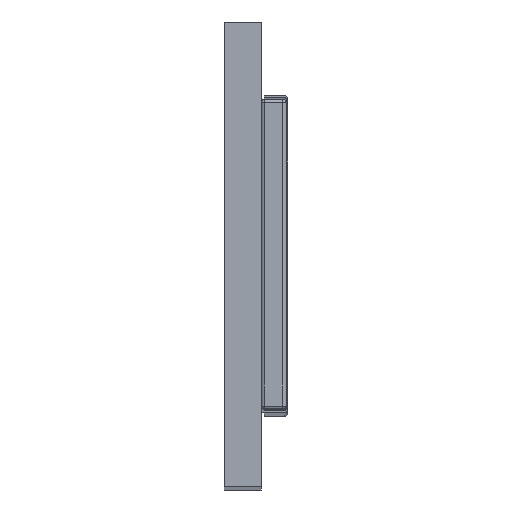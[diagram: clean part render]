
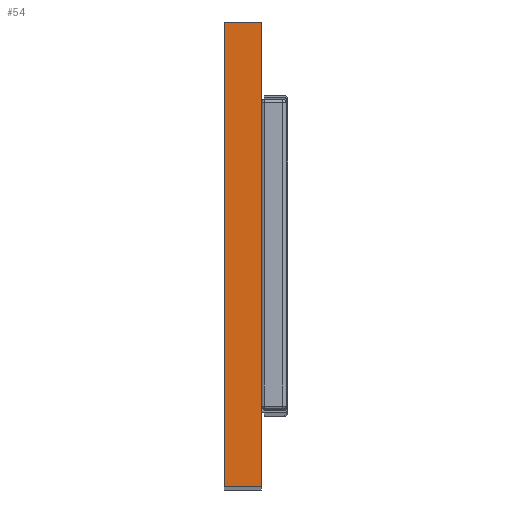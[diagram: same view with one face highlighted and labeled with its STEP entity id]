
A CAD part, top view. The second image highlights one B-rep face of the part: STEP entity #54.
In plain terms, the highlighted planar face has unit normal (0, 0, 1).
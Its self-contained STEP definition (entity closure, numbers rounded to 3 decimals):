
#54 = ADVANCED_FACE ( 'NONE', ( #4397 ), #1529, .F. ) ;
#68 = CARTESIAN_POINT ( 'NONE',  ( 6., 0., 320. ) ) ;
#256 = AXIS2_PLACEMENT_3D ( 'NONE', #1538, #1594, #1607 ) ;
#271 = ORIENTED_EDGE ( 'NONE', *, *, #3890, .T. ) ;
#312 = DIRECTION ( 'NONE',  ( 0., 1., 0. ) ) ;
#393 = ORIENTED_EDGE ( 'NONE', *, *, #528, .T. ) ;
#468 = EDGE_CURVE ( 'NONE', #2194, #3749, #2788, .T. ) ;
#500 = DIRECTION ( 'NONE',  ( 0., -1., 0. ) ) ;
#528 = EDGE_CURVE ( 'NONE', #1453, #2194, #3577, .T. ) ;
#738 = VECTOR ( 'NONE', #312, 1000. ) ;
#956 = DIRECTION ( 'NONE',  ( 1., 0., 0. ) ) ;
#990 = VECTOR ( 'NONE', #500, 1000. ) ;
#1063 = DIRECTION ( 'NONE',  ( -1., 0., 0. ) ) ;
#1158 = ORIENTED_EDGE ( 'NONE', *, *, #468, .T. ) ;
#1179 = VECTOR ( 'NONE', #1063, 1000. ) ;
#1256 = CARTESIAN_POINT ( 'NONE',  ( 0., 0., 320. ) ) ;
#1453 = VERTEX_POINT ( 'NONE', #2656 ) ;
#1529 = PLANE ( 'NONE',  #256 ) ;
#1538 = CARTESIAN_POINT ( 'NONE',  ( 0., 0., 320. ) ) ;
#1594 = DIRECTION ( 'NONE',  ( 0., 0., -1. ) ) ;
#1607 = DIRECTION ( 'NONE',  ( -1., 0., 0. ) ) ;
#1632 = VECTOR ( 'NONE', #956, 1000. ) ;
#1917 = CARTESIAN_POINT ( 'NONE',  ( 6., 0., 320. ) ) ;
#2001 = EDGE_LOOP ( 'NONE', ( #271, #393, #1158, #2726 ) ) ;
#2194 = VERTEX_POINT ( 'NONE', #68 ) ;
#2466 = LINE ( 'NONE', #4141, #1179 ) ;
#2656 = CARTESIAN_POINT ( 'NONE',  ( 0., 0., 320. ) ) ;
#2726 = ORIENTED_EDGE ( 'NONE', *, *, #3564, .T. ) ;
#2788 = LINE ( 'NONE', #1917, #738 ) ;
#3014 = VERTEX_POINT ( 'NONE', #4504 ) ;
#3564 = EDGE_CURVE ( 'NONE', #3749, #3014, #2466, .T. ) ;
#3577 = LINE ( 'NONE', #4707, #1632 ) ;
#3749 = VERTEX_POINT ( 'NONE', #4649 ) ;
#3890 = EDGE_CURVE ( 'NONE', #3014, #1453, #3954, .T. ) ;
#3954 = LINE ( 'NONE', #1256, #990 ) ;
#4141 = CARTESIAN_POINT ( 'NONE',  ( 0., 75., 320. ) ) ;
#4397 = FACE_OUTER_BOUND ( 'NONE', #2001, .T. ) ;
#4504 = CARTESIAN_POINT ( 'NONE',  ( 0., 75., 320. ) ) ;
#4649 = CARTESIAN_POINT ( 'NONE',  ( 6., 75., 320. ) ) ;
#4707 = CARTESIAN_POINT ( 'NONE',  ( 0., 0., 320. ) ) ;
